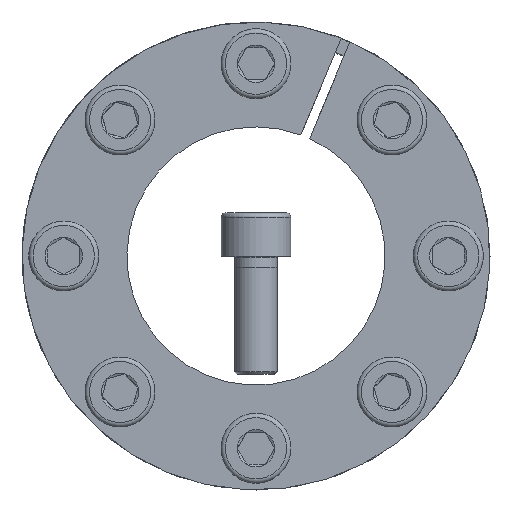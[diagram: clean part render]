
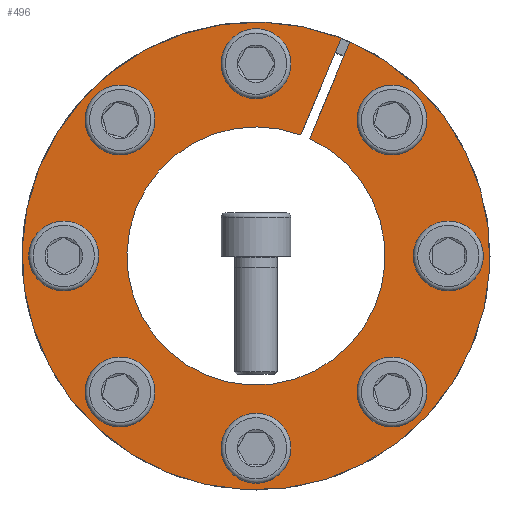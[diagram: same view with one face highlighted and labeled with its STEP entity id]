
A CAD part, front view. The second image highlights one B-rep face of the part: STEP entity #496.
In plain terms, the highlighted planar face has unit normal (0, -1, 0).
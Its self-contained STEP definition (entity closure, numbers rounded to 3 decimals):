
#496 = ADVANCED_FACE( '', ( #896, #897, #898, #899, #900, #901, #902, #903, #904 ), #905, .F. );
#896 = FACE_BOUND( '', #1468, .T. );
#897 = FACE_BOUND( '', #1469, .T. );
#898 = FACE_BOUND( '', #1470, .T. );
#899 = FACE_BOUND( '', #1471, .T. );
#900 = FACE_BOUND( '', #1472, .T. );
#901 = FACE_BOUND( '', #1473, .T. );
#902 = FACE_BOUND( '', #1474, .T. );
#903 = FACE_BOUND( '', #1475, .T. );
#904 = FACE_OUTER_BOUND( '', #1476, .T. );
#905 = PLANE( '', #1477 );
#1468 = EDGE_LOOP( '', ( #2149 ) );
#1469 = EDGE_LOOP( '', ( #2150 ) );
#1470 = EDGE_LOOP( '', ( #2151 ) );
#1471 = EDGE_LOOP( '', ( #2152 ) );
#1472 = EDGE_LOOP( '', ( #2153 ) );
#1473 = EDGE_LOOP( '', ( #2154 ) );
#1474 = EDGE_LOOP( '', ( #2155 ) );
#1475 = EDGE_LOOP( '', ( #2156 ) );
#1476 = EDGE_LOOP( '', ( #2157, #2158, #2159, #2160 ) );
#1477 = AXIS2_PLACEMENT_3D( '', #2161, #2162, #2163 );
#2149 = ORIENTED_EDGE( '', *, *, #3435, .T. );
#2150 = ORIENTED_EDGE( '', *, *, #3436, .T. );
#2151 = ORIENTED_EDGE( '', *, *, #3437, .T. );
#2152 = ORIENTED_EDGE( '', *, *, #3438, .T. );
#2153 = ORIENTED_EDGE( '', *, *, #3439, .T. );
#2154 = ORIENTED_EDGE( '', *, *, #3440, .T. );
#2155 = ORIENTED_EDGE( '', *, *, #3441, .T. );
#2156 = ORIENTED_EDGE( '', *, *, #3424, .T. );
#2157 = ORIENTED_EDGE( '', *, *, #3419, .T. );
#2158 = ORIENTED_EDGE( '', *, *, #3425, .T. );
#2159 = ORIENTED_EDGE( '', *, *, #3396, .T. );
#2160 = ORIENTED_EDGE( '', *, *, #3387, .F. );
#2161 = CARTESIAN_POINT( '', ( 0., 0., 43.5 ) );
#2162 = DIRECTION( '', ( 0., 1., 0. ) );
#2163 = DIRECTION( '', ( 0., 0., 1. ) );
#3387 = EDGE_CURVE( '', #3758, #3754, #3760, .T. );
#3396 = EDGE_CURVE( '', #3777, #3754, #3778, .T. );
#3419 = EDGE_CURVE( '', #3758, #3813, #3815, .T. );
#3424 = EDGE_CURVE( '', #3821, #3821, #3822, .T. );
#3425 = EDGE_CURVE( '', #3813, #3777, #3823, .T. );
#3435 = EDGE_CURVE( '', #3841, #3841, #3842, .T. );
#3436 = EDGE_CURVE( '', #3843, #3843, #3844, .T. );
#3437 = EDGE_CURVE( '', #3845, #3845, #3846, .T. );
#3438 = EDGE_CURVE( '', #3847, #3847, #3848, .T. );
#3439 = EDGE_CURVE( '', #3849, #3849, #3850, .T. );
#3440 = EDGE_CURVE( '', #3851, #3851, #3852, .T. );
#3441 = EDGE_CURVE( '', #3853, #3853, #3854, .T. );
#3754 = VERTEX_POINT( '', #4267 );
#3758 = VERTEX_POINT( '', #4272 );
#3760 = CIRCLE( '', #4275, 24. );
#3777 = VERTEX_POINT( '', #4300 );
#3778 = LINE( '', #4301, #4302 );
#3813 = VERTEX_POINT( '', #4366 );
#3815 = LINE( '', #4369, #4370 );
#3821 = VERTEX_POINT( '', #4376 );
#3822 = CIRCLE( '', #4377, 4. );
#3823 = CIRCLE( '', #4378, 43.5 );
#3841 = VERTEX_POINT( '', #4396 );
#3842 = CIRCLE( '', #4397, 4. );
#3843 = VERTEX_POINT( '', #4398 );
#3844 = CIRCLE( '', #4399, 4. );
#3845 = VERTEX_POINT( '', #4400 );
#3846 = CIRCLE( '', #4401, 4. );
#3847 = VERTEX_POINT( '', #4402 );
#3848 = CIRCLE( '', #4403, 4. );
#3849 = VERTEX_POINT( '', #4404 );
#3850 = CIRCLE( '', #4405, 4. );
#3851 = VERTEX_POINT( '', #4406 );
#3852 = CIRCLE( '', #4407, 4. );
#3853 = VERTEX_POINT( '', #4408 );
#3854 = CIRCLE( '', #4409, 4. );
#4267 = CARTESIAN_POINT( '', ( 9.996, 0., 21.819 ) );
#4272 = CARTESIAN_POINT( '', ( 8.36, 0., 22.497 ) );
#4275 = AXIS2_PLACEMENT_3D( '', #5232, #5233, #5234 );
#4300 = CARTESIAN_POINT( '', ( 17.462, 0., 39.841 ) );
#4301 = CARTESIAN_POINT( '', ( 17.465, 0., 39.85 ) );
#4302 = VECTOR( '', #5249, 1000. );
#4366 = CARTESIAN_POINT( '', ( 15.825, 0., 40.519 ) );
#4369 = CARTESIAN_POINT( '', ( 8.36, 0., 22.497 ) );
#4370 = VECTOR( '', #5274, 1000. );
#4376 = CARTESIAN_POINT( '', ( -22.451, 0., 28.107 ) );
#4377 = AXIS2_PLACEMENT_3D( '', #5287, #5288, #5289 );
#4378 = AXIS2_PLACEMENT_3D( '', #5290, #5291, #5292 );
#4396 = CARTESIAN_POINT( '', ( 4., 0., 35.75 ) );
#4397 = AXIS2_PLACEMENT_3D( '', #5320, #5321, #5322 );
#4398 = CARTESIAN_POINT( '', ( 28.107, 0., 22.451 ) );
#4399 = AXIS2_PLACEMENT_3D( '', #5323, #5324, #5325 );
#4400 = CARTESIAN_POINT( '', ( 35.75, 0., -4. ) );
#4401 = AXIS2_PLACEMENT_3D( '', #5326, #5327, #5328 );
#4402 = CARTESIAN_POINT( '', ( 22.451, 0., -28.107 ) );
#4403 = AXIS2_PLACEMENT_3D( '', #5329, #5330, #5331 );
#4404 = CARTESIAN_POINT( '', ( -4., 0., -35.75 ) );
#4405 = AXIS2_PLACEMENT_3D( '', #5332, #5333, #5334 );
#4406 = CARTESIAN_POINT( '', ( -28.107, 0., -22.451 ) );
#4407 = AXIS2_PLACEMENT_3D( '', #5335, #5336, #5337 );
#4408 = CARTESIAN_POINT( '', ( -35.75, 0., 4. ) );
#4409 = AXIS2_PLACEMENT_3D( '', #5338, #5339, #5340 );
#5232 = CARTESIAN_POINT( '', ( 0., 0., 0. ) );
#5233 = DIRECTION( '', ( 0., -1., 0. ) );
#5234 = DIRECTION( '', ( 0., 0., -1. ) );
#5249 = DIRECTION( '', ( -0.383, 0., -0.924 ) );
#5274 = DIRECTION( '', ( 0.383, 0., 0.924 ) );
#5287 = CARTESIAN_POINT( '', ( -25.279, 0., 25.279 ) );
#5288 = DIRECTION( '', ( 0., 1., 0. ) );
#5289 = DIRECTION( '', ( 0.707, 0., 0.707 ) );
#5290 = CARTESIAN_POINT( '', ( 0., 0., 0. ) );
#5291 = DIRECTION( '', ( 0., -1., 0. ) );
#5292 = DIRECTION( '', ( 0., 0., -1. ) );
#5320 = CARTESIAN_POINT( '', ( 0., 0., 35.75 ) );
#5321 = DIRECTION( '', ( 0., 1., 0. ) );
#5322 = DIRECTION( '', ( 1., 0., 0. ) );
#5323 = CARTESIAN_POINT( '', ( 25.279, 0., 25.279 ) );
#5324 = DIRECTION( '', ( 0., 1., 0. ) );
#5325 = DIRECTION( '', ( 0.707, 0., -0.707 ) );
#5326 = CARTESIAN_POINT( '', ( 35.75, 0., 0. ) );
#5327 = DIRECTION( '', ( 0., 1., 0. ) );
#5328 = DIRECTION( '', ( 0., 0., -1. ) );
#5329 = CARTESIAN_POINT( '', ( 25.279, 0., -25.279 ) );
#5330 = DIRECTION( '', ( 0., 1., 0. ) );
#5331 = DIRECTION( '', ( -0.707, 0., -0.707 ) );
#5332 = CARTESIAN_POINT( '', ( 0., 0., -35.75 ) );
#5333 = DIRECTION( '', ( 0., 1., 0. ) );
#5334 = DIRECTION( '', ( -1., 0., 0. ) );
#5335 = CARTESIAN_POINT( '', ( -25.279, 0., -25.279 ) );
#5336 = DIRECTION( '', ( 0., 1., 0. ) );
#5337 = DIRECTION( '', ( -0.707, 0., 0.707 ) );
#5338 = CARTESIAN_POINT( '', ( -35.75, 0., 0. ) );
#5339 = DIRECTION( '', ( 0., 1., 0. ) );
#5340 = DIRECTION( '', ( 0., 0., 1. ) );
